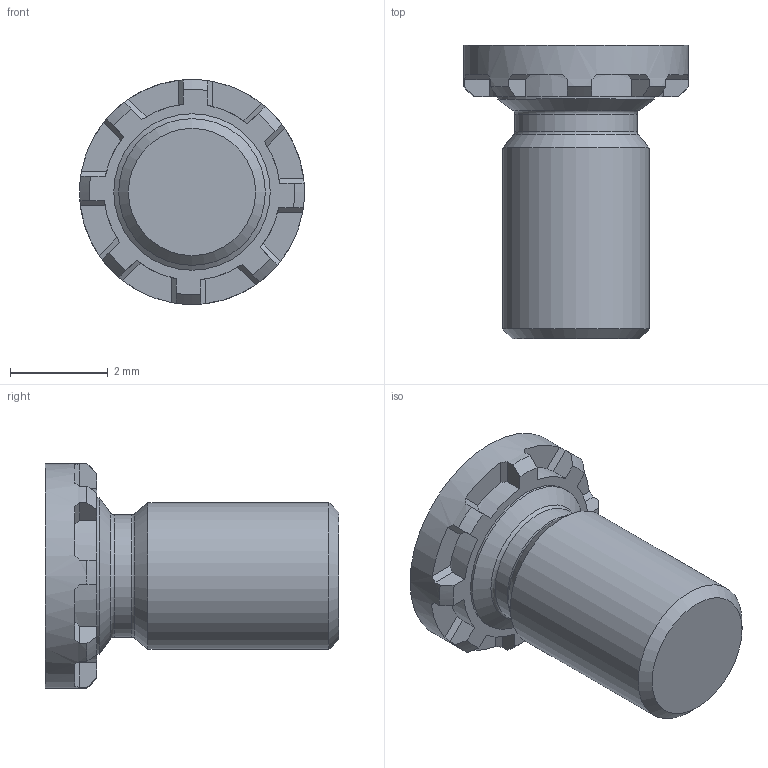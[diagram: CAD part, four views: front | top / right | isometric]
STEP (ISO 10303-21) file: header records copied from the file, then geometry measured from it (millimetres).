
FILE_DESCRIPTION(/* description */ (''),/* implementation_level */ '2;1');
FILE_NAME(/* name */ 'C:\Users\keval.kumar\Desktop\Fastit\Clinch Screw- FH Range\M3\Clinch Screw-FH Range_M3x6.stp',/* time_stamp */ '2024-03-12T11:50:09+05:00',/* author */ ('keval.kumar'),/* organization */ (''),/* preprocessor_version */ 'ST-DEVELOPER v18.1',/* originating_system */ 'Autodesk Inventor 2022',/* authorisation */ '');
FILE_SCHEMA (('AUTOMOTIVE_DESIGN { 1 0 10303 214 3 1 1 }'));
Length unit declared in the file: millimetre
Products named in the file (1): Clinch Screw-FH Range_M3x6
Bounding box: 4.6 x 6 x 4.6 mm (x, y, z)
Volume: 48.8 mm3; surface area: 95.1 mm2
Topology: 1 solids, 1 shells, 68 faces, 193 edges, 128 vertices
Faces by surface type: plane 43, cylinder 12, cone 11, torus 2
Full cylindrical faces by diameter (mm): 2.5 x1, 3 x1, 3.2 x1, 4.6 x1
Entity records: 2278 total; most frequent: CARTESIAN_POINT 422, DIRECTION 405, ORIENTED_EDGE 386, EDGE_CURVE 193, AXIS2_PLACEMENT_3D 159, VERTEX_POINT 128, LINE 87, VECTOR 87
